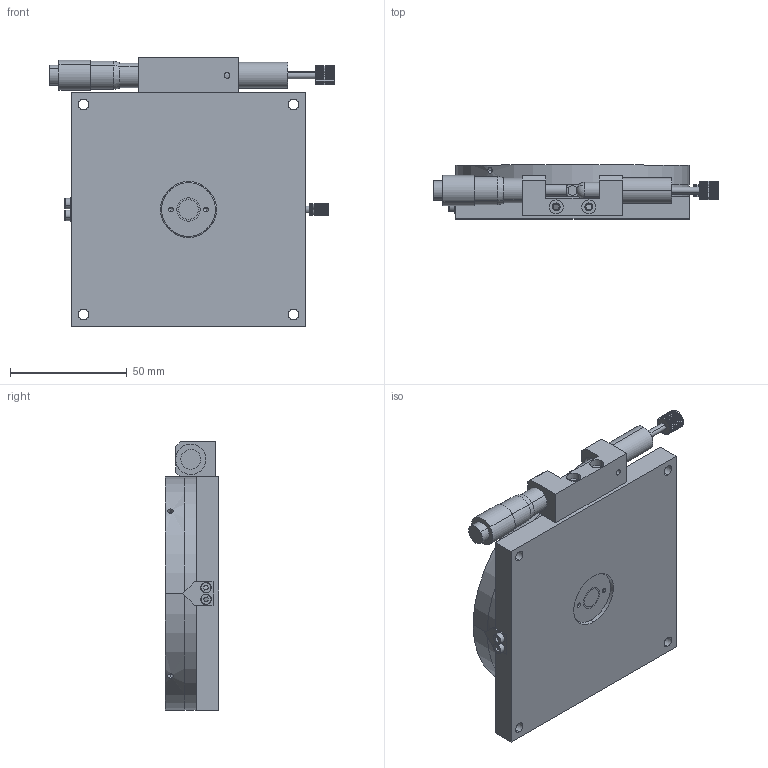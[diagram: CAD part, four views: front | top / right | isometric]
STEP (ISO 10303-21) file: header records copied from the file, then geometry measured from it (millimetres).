
FILE_DESCRIPTION (( 'STEP AP203' ), '1' );
FILE_NAME ('JCR-100L.STEP', '2015-04-15T05:51:10', ( '' ), ( '' ), 'SwSTEP 2.0', 'SolidWorks 2013', '' );
FILE_SCHEMA (( 'CONFIG_CONTROL_DESIGN' ));
Length unit declared in the file: millimetre
Products named in the file (1): JCR-100L
Bounding box: 122 x 23 x 115 mm (x, y, z)
Surface area: 46426.4 mm2 (no closed solid volume)
Topology: 0 solids, 20 shells, 385 faces, 1107 edges, 736 vertices
Faces by surface type: plane 190, cylinder 172, torus 10, cone 9, sphere 4
Entity records: 12950 total; most frequent: CARTESIAN_POINT 2540, DIRECTION 2268, ORIENTED_EDGE 1968, EDGE_CURVE 1101, AXIS2_PLACEMENT_3D 800, VERTEX_POINT 736, LINE 668, VECTOR 668
